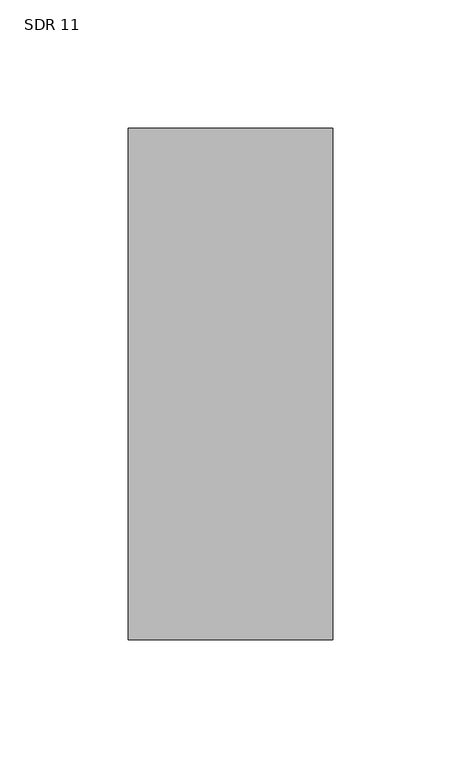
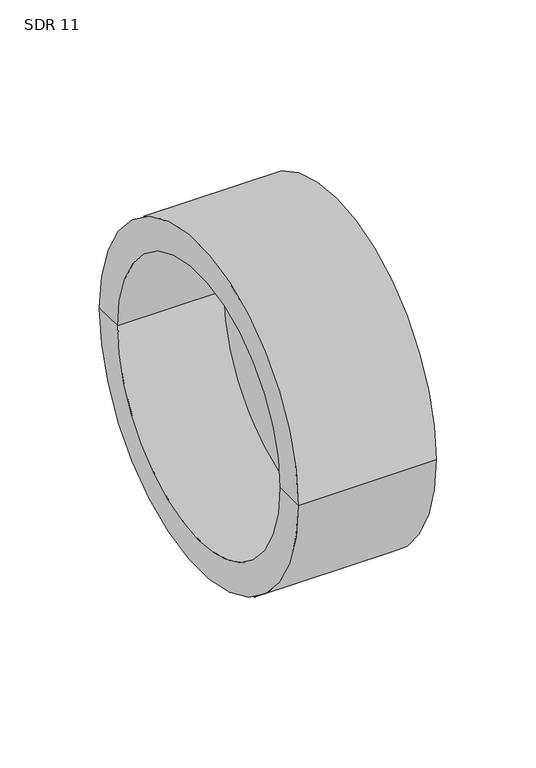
"""IFC4 building model written with IfcOpenShell, lengths in millimetres: pipe fitting geometry, Aquatherm - End Cap Butt-Weld : SDR 11."""

from ifc_helpers import new_model, si_unit, frame, origin, place, context, project, spatial, polyline, circle_curve, source, transform, mapped, element, save
from ifc_brep_helpers import plane_surface, cylinder_surface, revolved_surface, advanced_brep


def sdr_11_33df9739(model_context):
    return source(origin(), model_context, "Body", "AdvancedBrep", [
        advanced_brep(
        [(80.01, -99.949, 0.0), (80.01, 99.949, 0.0), (80.01, 0.0, 0.0), (61.722, 0.0, 0.0), (61.722, 81.788, 0.0), (61.722, -81.788, 0.0), (0.0, 81.788, 0.0), (0.0, -81.788, 0.0), (0.0, 99.949, 0.0), (0.0, -99.949, 0.0)],
        [
            (0, 1, circle_curve(frame((80.01, 0.0, 0.0), z_axis=(1.0, 0.0, 0.0), x_axis=(0.0, 1.0, 0.0)), 99.949)),
            (1, 2),
            (2, 0),
            (1, 0, circle_curve(frame((80.01, 0.0, 0.0), z_axis=(1.0, 0.0, 0.0), x_axis=(0.0, 1.0, 0.0)), 99.949)),
            (3, 4),
            (4, 5, circle_curve(frame((61.722, 0.0, 0.0), z_axis=(-1.0, 0.0, 0.0), x_axis=(0.0, 1.0, 0.0)), 81.788)),
            (5, 3),
            (5, 4, circle_curve(frame((61.722, 0.0, 0.0), z_axis=(-1.0, 0.0, 0.0), x_axis=(0.0, 1.0, 0.0)), 81.788)),
            (4, 6),
            (6, 7, circle_curve(frame((0.0, 0.0, 0.0), z_axis=(-1.0, 0.0, 0.0), x_axis=(0.0, 1.0, 0.0)), 81.788)),
            (7, 5),
            (7, 6, circle_curve(frame((0.0, 0.0, 0.0), z_axis=(-1.0, 0.0, 0.0), x_axis=(0.0, 1.0, 0.0)), 81.788)),
            (6, 8),
            (8, 9, circle_curve(frame((0.0, 0.0, 0.0), z_axis=(-1.0, 0.0, 0.0), x_axis=(0.0, 1.0, 0.0)), 99.949)),
            (9, 7),
            (9, 8, circle_curve(frame((0.0, 0.0, 0.0), z_axis=(-1.0, 0.0, 0.0), x_axis=(0.0, 1.0, 0.0)), 99.949)),
            (8, 1),
            (0, 9),
        ],
        [
            plane_surface(frame((80.01, 0.0, 0.0), z_axis=(1.0, 0.0, 0.0), x_axis=(0.0, 1.0, 0.0))),
            plane_surface(frame((61.722, 0.0, 0.0), z_axis=(-1.0, 0.0, 0.0), x_axis=(0.0, 1.0, 0.0))),
            revolved_surface(polyline([(0.0, 81.788, 0.0), (61.72199999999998, 81.788, 0.0)]), (-1363.98, 0.0, 0.0), (-1.0, 0.0, 0.0)),
            plane_surface(frame((0.0, 0.0, 0.0), z_axis=(-1.0, 0.0, 0.0), x_axis=(0.0, 1.0, 0.0))),
            cylinder_surface(frame((-1363.98, 0.0, 0.0), z_axis=(-1.0, 0.0, 0.0), x_axis=(0.0, 1.0, 0.0)), 99.949),
        ],
        [
            (0, [[1, 2, 3]]),
            (0, [[4, -3, -2]]),
            (1, [[5, 6, 7]]),
            (1, [[-7, 8, -5]]),
            (2, [[-6, 9, 10, 11]]),
            (2, [[-8, -11, 12, -9]]),
            (3, [[-10, 13, 14, 15]]),
            (3, [[-12, -15, 16, -13]]),
            (4, [[-14, 17, -1, 18]]),
            (4, [[-16, -18, -4, -17]]),
        ],
    ),
    ])


if __name__ == "__main__":
    model = new_model("IFC4")
    model_context = context("Model", 3, world=origin())
    ifc_project = project(units=[si_unit("LENGTHUNIT", "METRE", prefix="MILLI")], contexts=[model_context])
    site = spatial("IfcSite", under=ifc_project)
    building = spatial("IfcBuilding", under=site)
    placement = place(None, origin())
    sdr_11_shape = sdr_11_33df9739(model_context)
    element("IfcPipeFitting", 1, ObjectType="Aquatherm - End Cap Butt-Weld : SDR 11", at=placement, inside=building, context=model_context, shape_type="MappedRepresentation", body=[
        mapped(sdr_11_shape, transform((0.0, 0.0, 0.0), x_axis=(1.0, 0.0, 0.0), y_axis=(0.0, 1.0, 0.0), z_axis=(0.0, 0.0, 1.0))),
    ])
    save(model, "model.ifc")
